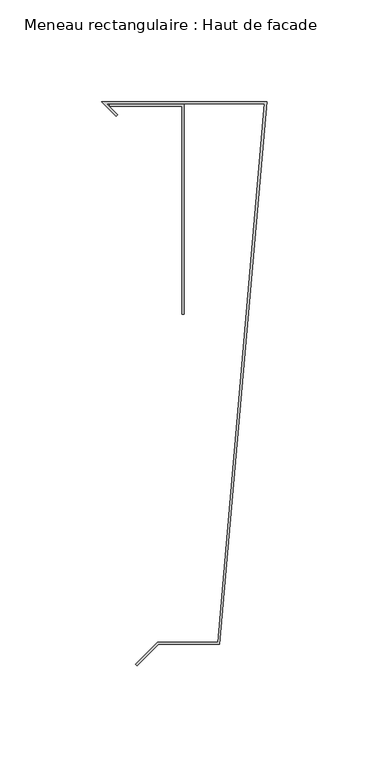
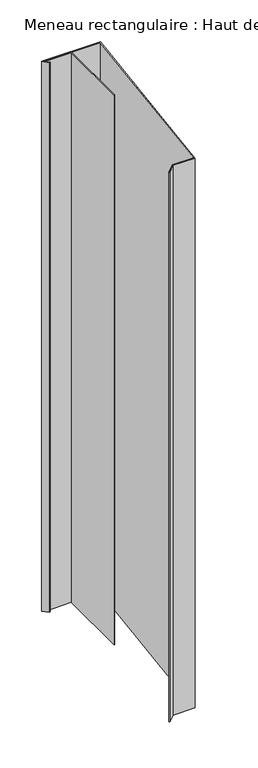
"""IFC4 building model written with IfcOpenShell, lengths in millimetres: member geometry, Meneau rectangulaire : Haut de facade."""

from ifc_helpers import new_model, si_unit, frame, origin, place, context, project, spatial, polyline, outline, extrude, source, transform, mapped, element, save


def meneau_rectangulaire_haut_de_facade_82e9be84(model_context):
    return source(origin(), model_context, "Body", "SweptSolid", [
        extrude(outline(polyline([(-24.0647895, -160.703755), (-1.0913085, 103.2), (-78.5857864, 103.2), (-73.2218254, 97.836039), (-73.9289322, 97.1289322), (-81.0, 104.2), (0.0, 104.2), (-23.1484584, -161.703755), (-53.1484584, -161.703755), (-63.7550601, -172.3103567), (-64.4621669, -171.6032499), (-53.5626719, -160.703755), (-24.0647895, -160.703755)])), frame((0.0, 0.0, -801.0), z_axis=(0.0, 0.0, 1.0), x_axis=(1.0, 0.0, 0.0)), (0.0, 0.0, 1.0), 801.0),
        extrude(outline(polyline([(-40.5477541, 102.9846816), (-40.5477541, 0.0384227), (-41.5477541, 0.0384227), (-41.5477541, 101.9846816), (-77.0752814, 101.9846816), (-77.0752814, 102.9846816), (-40.5477541, 102.9846816)])), frame((0.0, 0.0, -801.0), z_axis=(0.0, 0.0, 1.0), x_axis=(1.0, 0.0, 0.0)), (0.0, 0.0, 1.0), 801.0),
    ])


if __name__ == "__main__":
    model = new_model("IFC4")
    model_context = context("Model", 3, world=origin())
    ifc_project = project(units=[si_unit("LENGTHUNIT", "METRE", prefix="MILLI")], contexts=[model_context])
    site = spatial("IfcSite", under=ifc_project)
    building = spatial("IfcBuilding", under=site)
    placement = place(None, origin())
    meneau_rectangulaire_haut_de_facade_shape = meneau_rectangulaire_haut_de_facade_82e9be84(model_context)
    element("IfcMember", 1, ObjectType="Meneau rectangulaire : Haut de facade", at=placement, inside=building, context=model_context, shape_type="MappedRepresentation", body=[
        mapped(meneau_rectangulaire_haut_de_facade_shape, transform((0.0, 0.0, 0.0), x_axis=(1.0, 0.0, 0.0), y_axis=(0.0, 1.0, 0.0), z_axis=(0.0, 0.0, 1.0))),
    ])
    save(model, "model.ifc")
